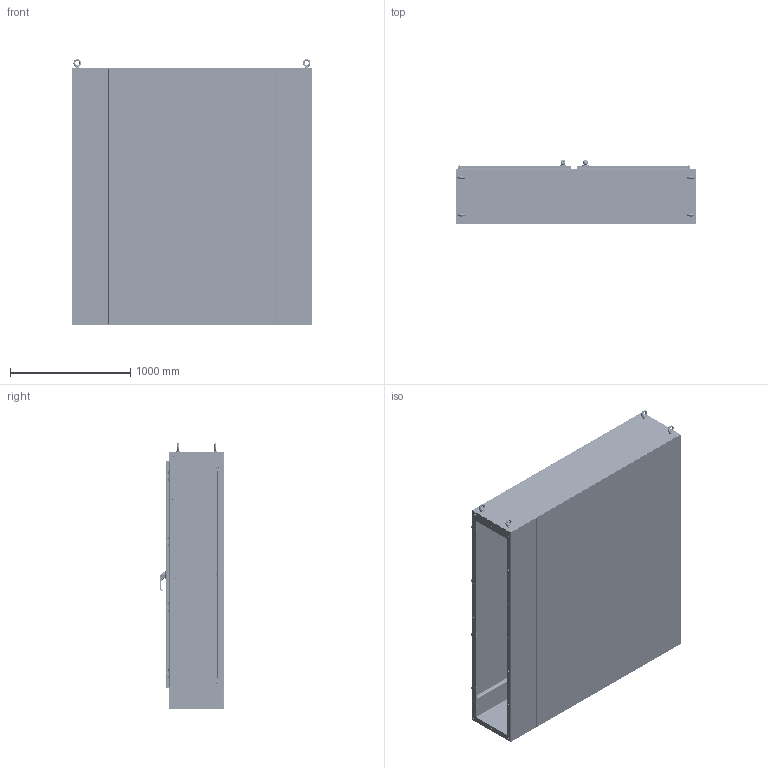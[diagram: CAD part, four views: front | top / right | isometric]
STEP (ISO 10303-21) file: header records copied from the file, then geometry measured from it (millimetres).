
FILE_DESCRIPTION((''),'2;1');
FILE_NAME('MODEL-601_ASM','2024-06-11T10:32:29',('andrew.knowlton'),('SAGINAW CONTROL & ENGINEERING'),'CREO PARAMETRIC BY PTC INC, 2021284','CREO PARAMETRIC BY PTC INC, 2021284','');
FILE_SCHEMA(('AUTOMOTIVE_DESIGN { 1 0 10303 214 1 1 1 1 }'));
Length unit declared in the file: inch
Products named in the file (116): MODEL-601-LH-R-SD; MODEL-601-LH-TP; MODEL-601-LH-L-SD; MODEL-601-LH-BCK; MODEL-601-LH-BTM; 127619; 100028; 127619_ASM; MODEL-601-LH-CCA-CHNL; MODEL-601-LH-CCA-STIF; 100062; 127618; 127617; 102535; MODEL-601-LH-CCASSY_ASM; MODEL-601-RH-DR; 100837; 100957_SCREW_MTG; 100957_PADLOCK_CATCH; 100957_SCREW_LARGE; 100957_INSERT_SHAFT; 100957_INSERT_PH; 100957_GASKET; 100957_O-RING; 100957_BASE; 100957_SPRING; 100957_HANDLE; 100957_CAM_SHAFT; 100957_HANDLE_ASM; 100957_CAM_ADAPTER; 100957_EARTH_NUT; 100957_FLANGE_NUT; 100957_CAM_NUT; 100957_ASM; 102236; 100030; 102236_ASM; MODEL-601-ROD-UPR-RHD; 128146; 128145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
Assembly tree (264 placements, depth 5):
  MODEL-601_ASM
    MODEL-601-LH-R-SD
    MODEL-601-LH-TP
    MODEL-601-LH-L-SD
    MODEL-601-LH-BCK
    MODEL-601-LH-BTM
    127619_ASM  x2
      127619
      100028
    MODEL-601-LH-CCASSY_ASM
      MODEL-601-LH-CCA-CHNL
      MODEL-601-LH-CCA-STIF
      100062  x2
      127618  x2
      127617  x2
      102535  x8
    MODEL-601-RH-DOOR-ASSY_ASM
      MODEL-601-RH-DR
      100837  x3
      100957_ASM
        100957_SCREW_MTG
        100957_PADLOCK_CATCH
        100957_SCREW_LARGE  x2
        100957_INSERT_SHAFT
        100957_INSERT_PH
        100957_GASKET
        100957_O-RING
        100957_BASE
        100957_SPRING
        100957_HANDLE_ASM
          100957_HANDLE
          100957_CAM_SHAFT
        100957_CAM_ADAPTER
        100957_EARTH_NUT
        100957_FLANGE_NUT
        100957_CAM_NUT
      102236_ASM
        102236
        100030  x2
      MODEL-601-ROD-UPR-RHD_ASM
        MODEL-601-ROD-UPR-RHD
        128146
        128145
        128144
        102482  x2
      128143  x2
      100882  x10
      112504  x2
      MODEL-601-ROD-LWR-RHD_ASM
        MODEL-601-ROD-LWR-RHD
        128146
        128145
        128144
        102482  x2
      MODEL-601-PR-GSKT-RHD
      128257_ASM  x4
        128257
      126393  x4
      102483  x4
      101369_ASM  x4
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Bounding box: 2000.25 x 535.27 x 2208.4 mm (x, y, z)
Volume: 52962641.2 mm3; surface area: 34581026 mm2
Topology: 307 solids, 307 shells, 24853 faces, 63353 edges, 39075 vertices
Faces by surface type: plane 8889, cylinder 6616, bspline 5588, torus 1724, cone 1324, sphere 652, extrusion 60
Entity records: 447601 total; most frequent: CARTESIAN_POINT 179751, ORIENTED_EDGE 40568, DIRECTION 37514, PRESENTATION_STYLE_ASSIGNMENT 20366, STYLED_ITEM 20361, EDGE_CURVE 20284, CURVE_STYLE 20236, AXIS2_PLACEMENT_3D 13799
